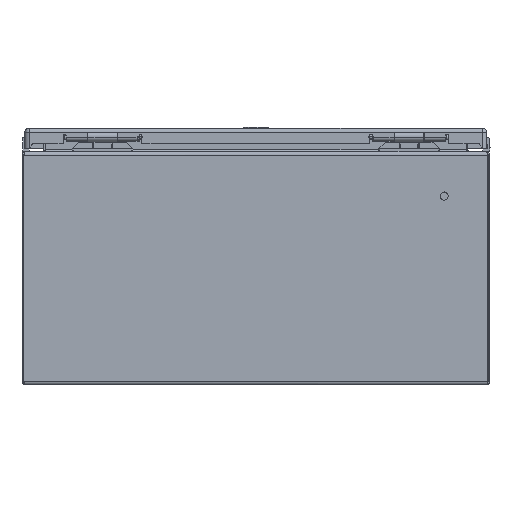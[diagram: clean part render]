
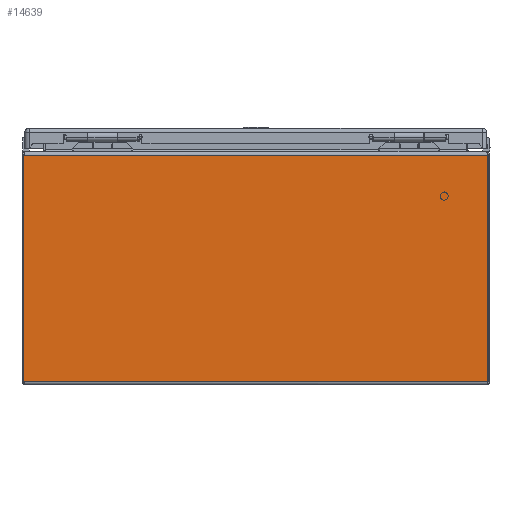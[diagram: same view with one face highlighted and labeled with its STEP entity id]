
A CAD part, left-side view. The second image highlights one B-rep face of the part: STEP entity #14639.
In plain terms, the highlighted planar face has unit normal (-1, 0, 0).
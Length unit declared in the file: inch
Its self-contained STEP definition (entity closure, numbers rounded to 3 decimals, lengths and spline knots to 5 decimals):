
#4019 = VECTOR ( 'NONE', #41159, 39.37008 ) ;
#4027 = VECTOR ( 'NONE', #41152, 39.37008 ) ;
#4028 = LINE ( 'NONE', #41153, #4019 ) ;
#4033 = LINE ( 'NONE', #41151, #4027 ) ;
#4051 = VECTOR ( 'NONE', #41118, 39.37008 ) ;
#4054 = LINE ( 'NONE', #41117, #4051 ) ;
#4115 = LINE ( 'NONE', #41005, #4119 ) ;
#4119 = VECTOR ( 'NONE', #41006, 39.37008 ) ;
#6289 = FACE_OUTER_BOUND ( 'NONE', #15756, .T. ) ;
#7673 = ORIENTED_EDGE ( 'NONE', *, *, #39989, .T. ) ;
#7712 = ORIENTED_EDGE ( 'NONE', *, *, #39971, .T. ) ;
#7723 = ORIENTED_EDGE ( 'NONE', *, *, #39928, .T. ) ;
#8052 = ORIENTED_EDGE ( 'NONE', *, *, #39986, .F. ) ;
#14639 = ADVANCED_FACE ( 'NONE', ( #6289 ), #27804, .T. ) ;
#15756 = EDGE_LOOP ( 'NONE', ( #7712, #8052, #7723, #7673 ) ) ;
#17766 = VERTEX_POINT ( 'NONE', #33531 ) ;
#17774 = VERTEX_POINT ( 'NONE', #33535 ) ;
#18310 = VERTEX_POINT ( 'NONE', #33809 ) ;
#27794 = CARTESIAN_POINT ( 'NONE',  ( -8., 88., 7.859 ) ) ;
#27804 = PLANE ( 'NONE',  #45092 ) ;
#27811 = DIRECTION ( 'NONE',  ( -1., 0., 0. ) ) ;
#27813 = DIRECTION ( 'NONE',  ( 0., 0., -1. ) ) ;
#29281 = VERTEX_POINT ( 'NONE', #35172 ) ;
#33531 = CARTESIAN_POINT ( 'NONE',  ( -8., -7.94693, 0.097 ) ) ;
#33535 = CARTESIAN_POINT ( 'NONE',  ( -8., 7.94693, 0.097 ) ) ;
#33809 = CARTESIAN_POINT ( 'NONE',  ( -8., 7.94693, 7.859 ) ) ;
#35172 = CARTESIAN_POINT ( 'NONE',  ( -8., -7.94693, 7.859 ) ) ;
#39928 = EDGE_CURVE ( 'NONE', #18310, #17774, #4115, .T. ) ;
#39971 = EDGE_CURVE ( 'NONE', #17766, #29281, #4054, .T. ) ;
#39986 = EDGE_CURVE ( 'NONE', #18310, #29281, #4033, .T. ) ;
#39989 = EDGE_CURVE ( 'NONE', #17774, #17766, #4028, .T. ) ;
#41005 = CARTESIAN_POINT ( 'NONE',  ( -8., 7.94693, 7.859 ) ) ;
#41006 = DIRECTION ( 'NONE',  ( 0., 0., -1. ) ) ;
#41117 = CARTESIAN_POINT ( 'NONE',  ( -8., -7.94693, 7.859 ) ) ;
#41118 = DIRECTION ( 'NONE',  ( 0., 0., 1. ) ) ;
#41151 = CARTESIAN_POINT ( 'NONE',  ( -8., 88., 7.859 ) ) ;
#41152 = DIRECTION ( 'NONE',  ( 0., -1., 0. ) ) ;
#41153 = CARTESIAN_POINT ( 'NONE',  ( -8., 88., 0.097 ) ) ;
#41159 = DIRECTION ( 'NONE',  ( 0., -1., 0. ) ) ;
#45092 = AXIS2_PLACEMENT_3D ( 'NONE', #27794, #27811, #27813 ) ;
